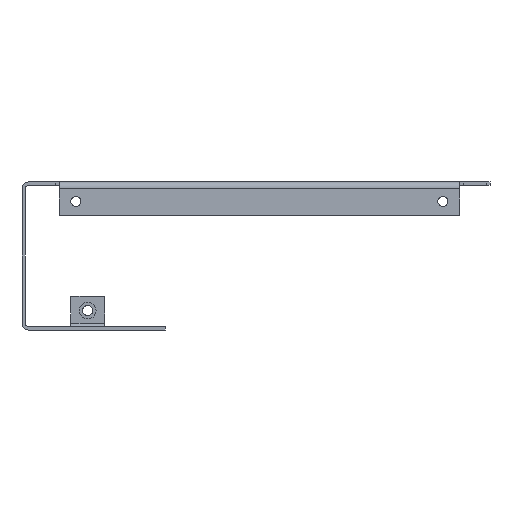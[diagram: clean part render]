
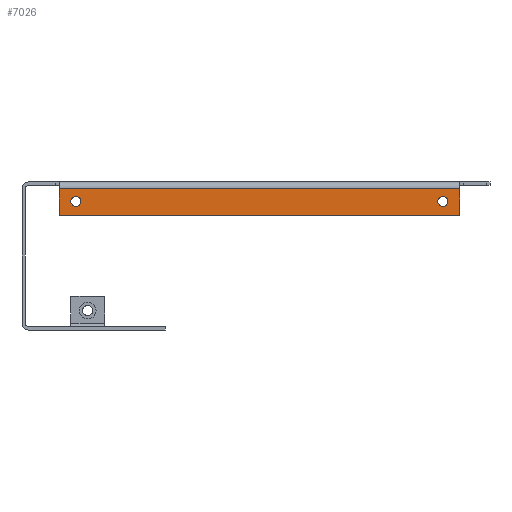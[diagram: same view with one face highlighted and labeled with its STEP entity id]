
A CAD part, front view. The second image highlights one B-rep face of the part: STEP entity #7026.
In plain terms, the highlighted planar face has unit normal (0, -1, 0).
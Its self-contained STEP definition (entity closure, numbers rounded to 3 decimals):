
#6644=CARTESIAN_POINT('',(-10.5,1.299,147.));
#6645=VERTEX_POINT('',#6644);
#6654=CARTESIAN_POINT('',(-129.5,1.299,147.));
#6655=VERTEX_POINT('',#6654);
#6663=CARTESIAN_POINT('',(-129.5,1.299,147.));
#6664=DIRECTION('',(1.,0.,-0.));
#6665=VECTOR('',#6664,119.);
#6666=LINE('',#6663,#6665);
#6667=EDGE_CURVE('',#6655,#6645,#6666,.T.);
#6802=CARTESIAN_POINT('',(-124.5,1.299,141.7));
#6803=VERTEX_POINT('',#6802);
#6810=CARTESIAN_POINT('',(-123.,1.299,143.2));
#6811=VERTEX_POINT('',#6810);
#6812=CARTESIAN_POINT('',(-124.5,1.299,143.2));
#6813=DIRECTION('',(-0.,-1.,-0.));
#6814=DIRECTION('',(0.,-0.,1.));
#6815=AXIS2_PLACEMENT_3D('',#6812,#6813,#6814);
#6816=CIRCLE('',#6815,1.5);
#6817=EDGE_CURVE('',#6803,#6811,#6816,.T.);
#6828=CARTESIAN_POINT('',(-124.5,1.299,143.2));
#6829=DIRECTION('',(-0.,-1.,-0.));
#6830=DIRECTION('',(0.,-0.,1.));
#6831=AXIS2_PLACEMENT_3D('',#6828,#6829,#6830);
#6832=CIRCLE('',#6831,1.5);
#6833=EDGE_CURVE('',#6811,#6803,#6832,.T.);
#6863=CARTESIAN_POINT('',(-15.5,1.299,141.7));
#6864=VERTEX_POINT('',#6863);
#6871=CARTESIAN_POINT('',(-15.5,1.299,143.2));
#6872=DIRECTION('',(-0.,-1.,-0.));
#6873=DIRECTION('',(0.,-0.,1.));
#6874=AXIS2_PLACEMENT_3D('',#6871,#6872,#6873);
#6875=CIRCLE('',#6874,1.5);
#6876=EDGE_CURVE('',#6864,#6864,#6875,.T.);
#6933=CARTESIAN_POINT('',(-10.5,1.299,139.));
#6934=VERTEX_POINT('',#6933);
#6941=CARTESIAN_POINT('',(-129.5,1.299,139.));
#6942=VERTEX_POINT('',#6941);
#6943=CARTESIAN_POINT('',(-129.5,1.299,139.));
#6944=DIRECTION('',(1.,0.,-0.));
#6945=VECTOR('',#6944,119.);
#6946=LINE('',#6943,#6945);
#6947=EDGE_CURVE('',#6942,#6934,#6946,.T.);
#6998=CARTESIAN_POINT('',(-129.5,1.299,139.));
#6999=DIRECTION('',(0.,1.,0.));
#7000=DIRECTION('',(0.,-0.,1.));
#7001=AXIS2_PLACEMENT_3D('',#6998,#6999,#7000);
#7002=PLANE('',#7001);
#7003=ORIENTED_EDGE('',*,*,#6876,.F.);
#7004=EDGE_LOOP('',(#7003));
#7005=FACE_BOUND('',#7004,.T.);
#7006=ORIENTED_EDGE('',*,*,#6817,.F.);
#7007=ORIENTED_EDGE('',*,*,#6833,.F.);
#7008=EDGE_LOOP('',(#7006,#7007));
#7009=FACE_BOUND('',#7008,.T.);
#7010=CARTESIAN_POINT('',(-10.5,1.299,139.));
#7011=DIRECTION('',(-0.,-0.,1.));
#7012=VECTOR('',#7011,8.);
#7013=LINE('',#7010,#7012);
#7014=EDGE_CURVE('',#6934,#6645,#7013,.T.);
#7015=ORIENTED_EDGE('',*,*,#7014,.T.);
#7016=ORIENTED_EDGE('',*,*,#6667,.F.);
#7017=CARTESIAN_POINT('',(-129.5,1.299,139.));
#7018=DIRECTION('',(-0.,-0.,1.));
#7019=VECTOR('',#7018,8.);
#7020=LINE('',#7017,#7019);
#7021=EDGE_CURVE('',#6942,#6655,#7020,.T.);
#7022=ORIENTED_EDGE('',*,*,#7021,.F.);
#7023=ORIENTED_EDGE('',*,*,#6947,.T.);
#7024=EDGE_LOOP('',(#7015,#7016,#7022,#7023));
#7025=FACE_BOUND('',#7024,.T.);
#7026=ADVANCED_FACE('',(#7005,#7009,#7025),#7002,.F.);
